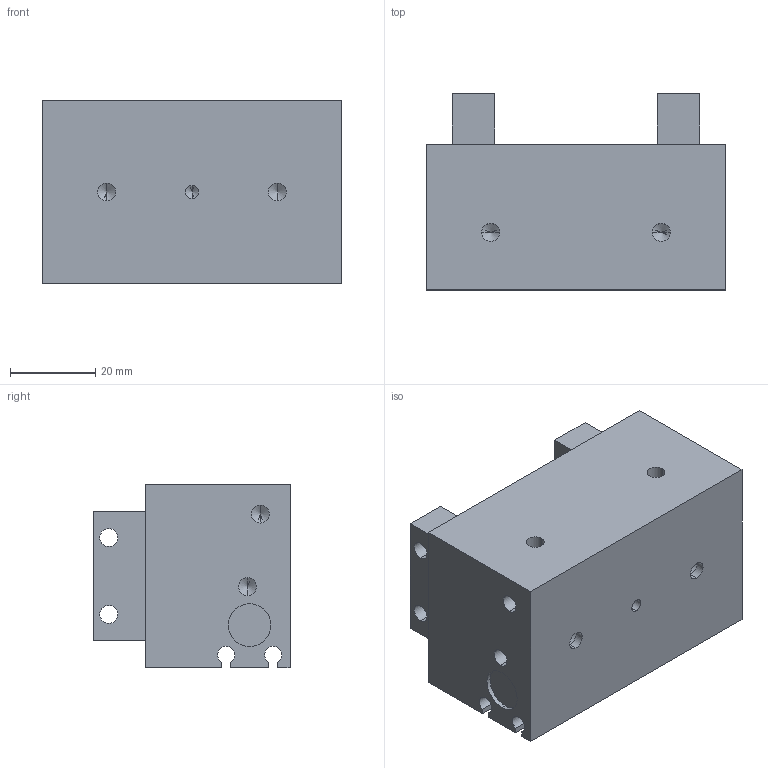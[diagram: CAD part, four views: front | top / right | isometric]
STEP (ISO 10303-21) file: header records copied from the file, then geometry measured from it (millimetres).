
FILE_DESCRIPTION (( 'STEP AP203' ), '1' );
FILE_NAME ('CHU 16 Assemblage1.STEP', '2012-12-14T10:12:46', ( '' ), ( '' ), 'SwSTEP 2.0', 'SolidWorks 2010', '' );
FILE_SCHEMA (( 'CONFIG_CONTROL_DESIGN' ));
Length unit declared in the file: millimetre
Products named in the file (3): CHU 16 Assemblage1; CHU 16 CORP; CHU 16 DOIGT DROIT
Assembly tree (3 placements, depth 2):
  CHU 16 Assemblage1
    CHU 16 CORP
    CHU 16 DOIGT DROIT  x2
Bounding box: 70 x 46 x 43 mm (x, y, z)
Volume: 99672.9 mm3; surface area: 24738.8 mm2
Topology: 3 solids, 3 shells, 87 faces, 220 edges, 135 vertices
Faces by surface type: plane 37, cylinder 36, cone 14
Entity records: 2470 total; most frequent: DIRECTION 397, CARTESIAN_POINT 366, ORIENTED_EDGE 346, EDGE_CURVE 173, AXIS2_PLACEMENT_3D 144, VERTEX_POINT 113, LINE 109, VECTOR 109
